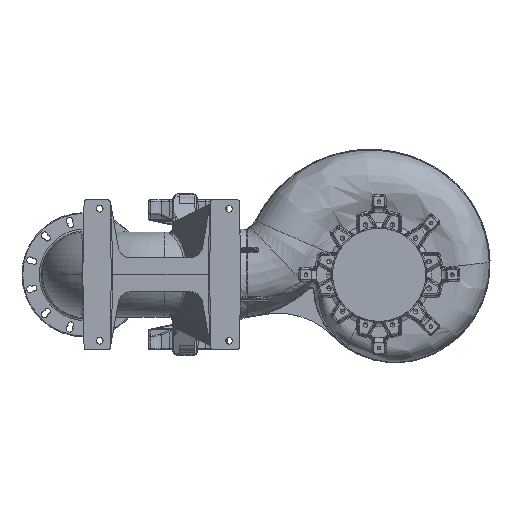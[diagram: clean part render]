
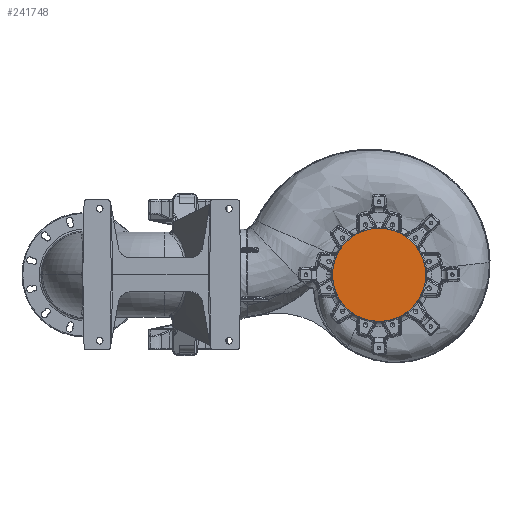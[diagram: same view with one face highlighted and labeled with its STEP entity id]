
A CAD part, front view. The second image highlights one B-rep face of the part: STEP entity #241748.
In plain terms, the highlighted planar face has unit normal (0, -1, 0).
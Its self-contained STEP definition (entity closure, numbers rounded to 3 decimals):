
#686 = DIRECTION ( 'NONE',  ( 0., 1., 0. ) ) ;
#8768 = VERTEX_POINT ( 'NONE', #61606 ) ;
#14835 = AXIS2_PLACEMENT_3D ( 'NONE', #186173, #52326, #208632 ) ;
#32648 = VERTEX_POINT ( 'NONE', #97233 ) ;
#39470 = CIRCLE ( 'NONE', #14835, 180. ) ;
#49105 = EDGE_CURVE ( 'NONE', #32648, #8768, #39470, .T. ) ;
#52326 = DIRECTION ( 'NONE',  ( 0., 1., 0. ) ) ;
#61606 = CARTESIAN_POINT ( 'NONE',  ( -180., -623.5, 0. ) ) ;
#66020 = EDGE_LOOP ( 'NONE', ( #285991, #145212 ) ) ;
#80177 = DIRECTION ( 'NONE',  ( 0., 1., 0. ) ) ;
#97233 = CARTESIAN_POINT ( 'NONE',  ( 180., -623.5, 0. ) ) ;
#134417 = CARTESIAN_POINT ( 'NONE',  ( 0., -623.5, 0. ) ) ;
#143164 = AXIS2_PLACEMENT_3D ( 'NONE', #134417, #686, #156962 ) ;
#145212 = ORIENTED_EDGE ( 'NONE', *, *, #189869, .F. ) ;
#156962 = DIRECTION ( 'NONE',  ( 1., 0., 0. ) ) ;
#178513 = PLANE ( 'NONE',  #143164 ) ;
#186173 = CARTESIAN_POINT ( 'NONE',  ( 0., -623.5, 0. ) ) ;
#189869 = EDGE_CURVE ( 'NONE', #8768, #32648, #224852, .T. ) ;
#203369 = FACE_OUTER_BOUND ( 'NONE', #66020, .T. ) ;
#208632 = DIRECTION ( 'NONE',  ( 1., 0., 0. ) ) ;
#214155 = CARTESIAN_POINT ( 'NONE',  ( 0., -623.5, 0. ) ) ;
#224852 = CIRCLE ( 'NONE', #280412, 180. ) ;
#236655 = DIRECTION ( 'NONE',  ( 1., 0., 0. ) ) ;
#241748 = ADVANCED_FACE ( 'NONE', ( #203369 ), #178513, .F. ) ;
#280412 = AXIS2_PLACEMENT_3D ( 'NONE', #214155, #80177, #236655 ) ;
#285991 = ORIENTED_EDGE ( 'NONE', *, *, #49105, .F. ) ;
